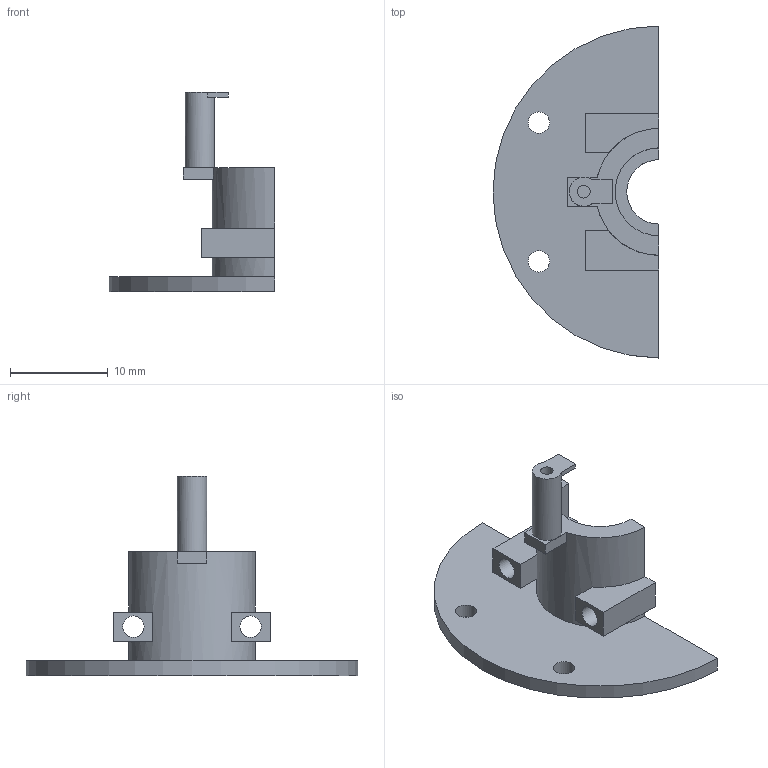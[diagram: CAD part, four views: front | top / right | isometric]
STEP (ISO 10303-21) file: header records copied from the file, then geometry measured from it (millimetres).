
FILE_DESCRIPTION(('Open CASCADE Model'),'2;1');
FILE_NAME('Open CASCADE Shape Model','2026-09-24T17:43:00',('Author'),( 'Open CASCADE'),'Open CASCADE STEP processor 7.8','Open CASCADE 7.8' ,'Unknown');
FILE_SCHEMA(('AUTOMOTIVE_DESIGN { 1 0 10303 214 1 1 1 1 }'));
Length unit declared in the file: millimetre
Products named in the file (1): Open CASCADE STEP translator 7.8 1
Bounding box: 17 x 34 x 20.39 mm (x, y, z)
Volume: 1091.7 mm3; surface area: 1882.3 mm2
Topology: 1 solids, 1 shells, 47 faces, 136 edges, 90 vertices
Faces by surface type: plane 32, cylinder 15
Full cylindrical faces by diameter (mm): 1.3 x1, 2.2 x4, 3 x1
Entity records: 3726 total; most frequent: CARTESIAN_POINT 998, DIRECTION 510, LINE 292, VECTOR 292, ORIENTED_EDGE 272, PCURVE 272, DEFINITIONAL_REPRESENTATION 272, EDGE_CURVE 136
